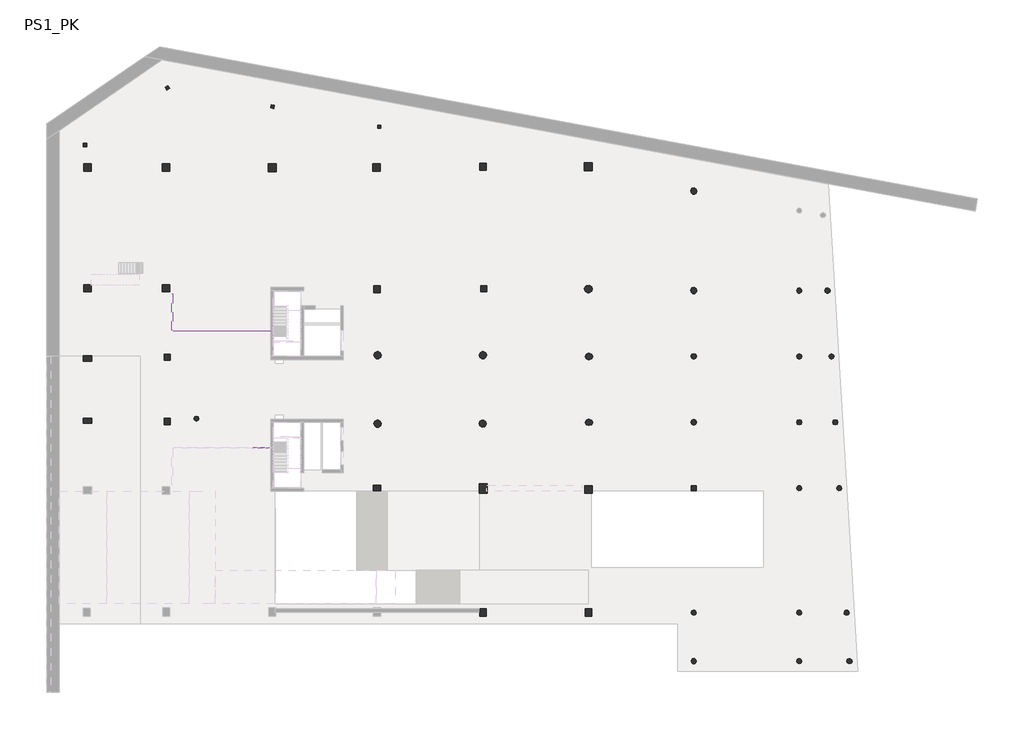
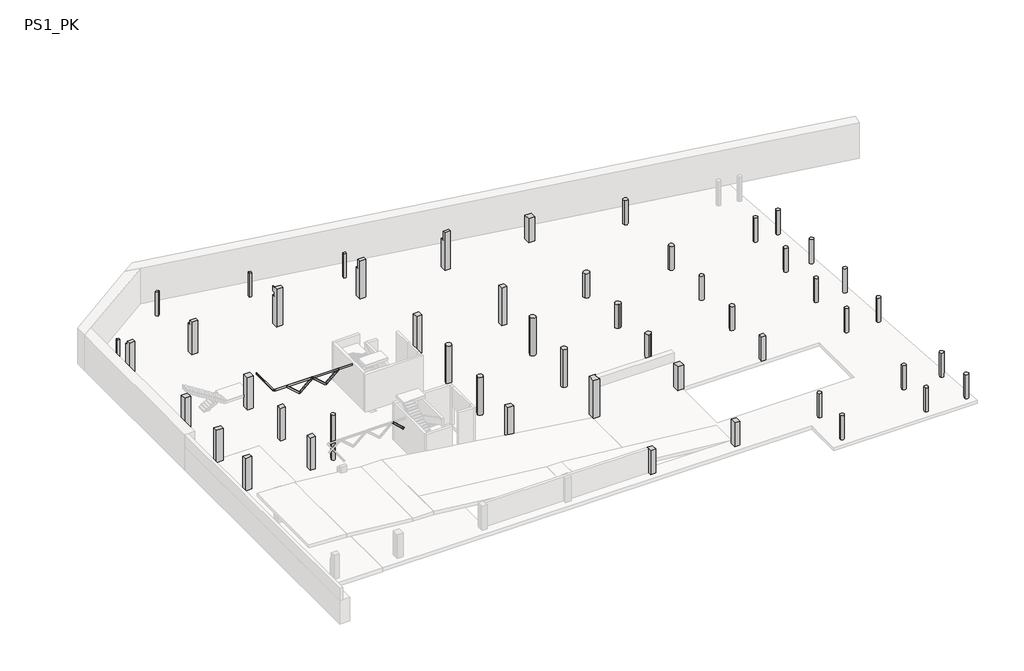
# One storey, part 2 of 5: 50 columns, 8 beams.
"""IFC4 building model written with IfcOpenShell, lengths in millimetres."""

from ifc_helpers import new_model, si_unit, point, frame, frame_2d, origin, place, context, project, spatial, polyline, circle_curve, trimmed, segment, composite_curve, outline, extrude, faceted_brep, transform, mapped, element, save
from components import ub_universal_beams_ipe_160x82_ff3febe6, upn200x75_1c1293da, upn200x75_5a3f8982, upn200x75_6adde346, upn200x75_6ec22855

model = new_model("IFC4")

# Units and contexts
model_context = context("Model", 3, world=origin())
ifc_project = project(units=[si_unit("LENGTHUNIT", "METRE", prefix="MILLI")], contexts=[model_context])

# Site, building, storey
site = spatial("IfcSite", under=ifc_project)
building = spatial("IfcBuilding", under=site)
storey = spatial("IfcBuildingStorey", under=building, Name="PS1_PK", Elevation=1850.0)

# Beams
placement = place(None, origin())
element("IfcBeam", 1, ObjectType="M_Concrete-Rectangular Beam : 600 x 800mm", at=placement, inside=storey, context=model_context, shape_type="Brep", body=[
    faceted_brep([(6732.5488953, -5410.1312177, 1050.0), (6132.5488953, -5410.1304592, 1050.0), (6132.5488953, -5410.1304592, 1450.0), (6732.5488953, -5410.1312177, 1450.0), (6132.5350845, -16335.0987777, 1050.0), (6732.5350845, -16335.0995362, 1050.0), (6732.5350845, -16335.0995362, 1450.0), (6132.5350845, -16335.0987777, 1450.0), (6132.5396986, -12685.103435, 1850.0), (6132.5357165, -15835.1021976, 1850.0), (6732.5357165, -15835.1021978, 1850.0), (6732.5396986, -12685.103435, 1850.0), (6732.5396986, -12685.103435, 1450.0), (6732.5357165, -15835.1021981, 1450.0), (6132.5357165, -15835.1021976, 1450.0), (6132.5396986, -12685.1034349, 1450.0)], [[[0, 1, 2, 3]], [[4, 5, 6, 7]], [[8, 9, 10, 11]], [[5, 0, 3, 12, 11, 10, 13, 6]], [[1, 0, 5, 4]], [[1, 4, 7, 14, 9, 8, 15, 2]], [[13, 14, 7, 6]], [[14, 13, 10, 9]], [[12, 15, 8, 11]], [[15, 12, 3, 2]]]),
])
ub_universal_beams_ipe_160x82_shape = ub_universal_beams_ipe_160x82_ff3febe6(model_context)
element("IfcBeam", 2, ObjectType="UB-Universal Beams : IPE 160x82", at=placement, inside=storey, context=model_context, shape_type="MappedRepresentation", body=[
    mapped(ub_universal_beams_ipe_160x82_shape, transform((-22991.1860553, 11796.9859036, 6250.0), x_axis=(0.0, -1.0, 0.0), y_axis=(1.0, 0.0, 0.0), z_axis=(0.0, 0.0, 1.0))),
])
upn200x75_shape = upn200x75_1c1293da(model_context)
element("IfcBeam", 3, ObjectType="M_MC Shapes : UPN200x75", at=placement, inside=storey, context=model_context, shape_type="MappedRepresentation", body=[
    mapped(upn200x75_shape, transform((-20665.5322726, 10001.2791584, 5556.0464738), x_axis=(0.7536675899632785, 9.524177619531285e-09, -0.6572557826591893), y_axis=(-1.2637106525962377e-08, 0.9999999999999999, 0.0), z_axis=(0.6572557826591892, 8.30581134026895e-09, 0.7536675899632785))),
])
element("IfcBeam", 4, ObjectType="M_MC Shapes : UPN200x75", at=placement, inside=storey, context=model_context, shape_type="MappedRepresentation", body=[
    mapped(upn200x75_shape, transform((-17564.672898, 10001.2791584, 5556.0464738), x_axis=(0.753667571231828, 9.518464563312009e-09, -0.657255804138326), y_axis=(-1.2629526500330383e-08, 1.0, 0.0), z_axis=(0.6572558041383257, 8.300829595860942e-09, 0.753667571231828))),
])
upn200x75_2_shape = upn200x75_5a3f8982(model_context)
element("IfcBeam", 5, ObjectType="M_MC Shapes : UPN200x75", at=placement, inside=storey, context=model_context, shape_type="MappedRepresentation", body=[
    mapped(upn200x75_2_shape, transform((-19115.1026541, 10001.2791583, 5556.0464738), x_axis=(-0.7536676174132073, 9.37918218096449e-09, -0.6572557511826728), y_axis=(-1.2444719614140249e-08, -1.0, 0.0), z_axis=(-0.6572557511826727, 8.17936353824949e-09, 0.7536676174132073))),
])
element("IfcBeam", 6, ObjectType="M_MC Shapes : UPN200x75", at=placement, inside=storey, context=model_context, shape_type="MappedRepresentation", body=[
    mapped(upn200x75_2_shape, transform((-16014.2433541, 10001.2791583, 5556.0464738), x_axis=(-0.753667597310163, 9.37305898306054e-09, -0.6572557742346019), y_axis=(-1.2436595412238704e-08, -0.9999999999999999, 0.0), z_axis=(-0.6572557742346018, 8.174024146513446e-09, 0.753667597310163))),
])
upn200x75_3_shape = upn200x75_6adde346(model_context)
element("IfcBeam", 7, ObjectType="M_MC Shapes : UPN200x75", at=placement, inside=storey, context=model_context, shape_type="MappedRepresentation", body=[
    mapped(upn200x75_3_shape, transform((-14545.5603774, -1021.4872817, 5606.0464738), x_axis=(0.7426831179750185, -1.1791248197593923e-08, -0.6696430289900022), y_axis=(1.5876553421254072e-08, 1.0, 0.0), z_axis=(0.6696430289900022, -1.0631623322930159e-08, 0.7426831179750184))),
])
upn200x75_4_shape = upn200x75_6ec22855(model_context)
element("IfcBeam", 8, ObjectType="M_MC Shapes : UPN200x75", at=placement, inside=storey, context=model_context, shape_type="MappedRepresentation", body=[
    mapped(upn200x75_4_shape, transform((-18278.2406773, 10001.2793274, 6230.0), x_axis=(0.9999999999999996, 3.175670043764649e-08, 0.0), y_axis=(-3.175670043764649e-08, 0.9999999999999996, 0.0), z_axis=(0.0, 0.0, 1.0))),
])

# Columns
element("IfcColumn", 9, ObjectType="Hormigón-Redondo-Pilar : Pilo_Rodo-Formigo-500", at=placement, inside=storey, context=model_context, shape_type="SweptSolid", body=[
    extrude(outline(composite_curve([segment(trimmed(circle_curve(frame_2d((36484.7068935, 13864.8960687)), 250.0), [point((36278.8019525, 13723.1104726))], [point((36690.6118345, 14006.6816649))], False, "CARTESIAN"), True, "CONTINUOUS"), segment(trimmed(circle_curve(frame_2d((36484.7068935, 13864.8960687)), 250.0), [point((36690.6118345, 14006.6816649))], [point((36278.8019525, 13723.1104726))], False, "CARTESIAN"), True, "CONTINUOUS")], self_intersect=False)), frame((0.0, 0.0, 1850.0), z_axis=(0.0, 0.0, 1.0), x_axis=(1.0, 0.0, 0.0)), (0.0, 0.0, 1.0), 3030.0),
])
element("IfcColumn", 10, ObjectType="Hormigón-Redondo-Pilar : Pilo_Rodo-Formigo-500", at=placement, inside=storey, context=model_context, shape_type="SweptSolid", body=[
    extrude(outline(composite_curve([segment(trimmed(circle_curve(frame_2d((39164.9781849, 13864.8960687)), 250.0), [point((38959.0732439, 13723.1104726))], [point((39370.8831259, 14006.6816649))], False, "CARTESIAN"), True, "CONTINUOUS"), segment(trimmed(circle_curve(frame_2d((39164.9781849, 13864.8960687)), 250.0), [point((39370.8831259, 14006.6816649))], [point((38959.0732439, 13723.1104726))], False, "CARTESIAN"), True, "CONTINUOUS")], self_intersect=False)), frame((0.0, 0.0, 1850.0), z_axis=(0.0, 0.0, 1.0), x_axis=(1.0, 0.0, 0.0)), (0.0, 0.0, 1.0), 3030.0),
])
element("IfcColumn", 11, ObjectType="Hormigón-Redondo-Pilar : Pilo_Rodo-Formigo-500", at=placement, inside=storey, context=model_context, shape_type="SweptSolid", body=[
    extrude(outline(composite_curve([segment(trimmed(circle_curve(frame_2d((40283.1132302, -4885.1039321)), 250.0), [point((40077.2082892, -5026.8895282))], [point((40489.0181712, -4743.318336))], False, "CARTESIAN"), True, "CONTINUOUS"), segment(trimmed(circle_curve(frame_2d((40283.1132302, -4885.1039321)), 250.0), [point((40489.0181712, -4743.318336))], [point((40077.2082892, -5026.8895282))], False, "CARTESIAN"), True, "CONTINUOUS")], self_intersect=False)), frame((0.0, 0.0, 1850.0), z_axis=(0.0, 0.0, 1.0), x_axis=(1.0, 0.0, 0.0)), (0.0, 0.0, 1.0), 3030.0),
])
element("IfcColumn", 12, ObjectType="Hormigón-Redondo-Pilar : Pilo_Rodo-Formigo-500", at=placement, inside=storey, context=model_context, shape_type="SweptSolid", body=[
    extrude(outline(composite_curve([segment(trimmed(circle_curve(frame_2d((36484.7068935, -4885.1039321)), 250.0), [point((36278.8019525, -5026.8895282))], [point((36690.6118345, -4743.318336))], False, "CARTESIAN"), True, "CONTINUOUS"), segment(trimmed(circle_curve(frame_2d((36484.7068935, -4885.1039321)), 250.0), [point((36690.6118345, -4743.318336))], [point((36278.8019525, -5026.8895282))], False, "CARTESIAN"), True, "CONTINUOUS")], self_intersect=False)), frame((0.0, 0.0, 1850.0), z_axis=(0.0, 0.0, 1.0), x_axis=(1.0, 0.0, 0.0)), (0.0, 0.0, 1.0), 3030.0),
])
element("IfcColumn", 13, ObjectType="Hormigón-Redondo-Pilar : Pilo_Rodo-Formigo-500", at=placement, inside=storey, context=model_context, shape_type="SweptSolid", body=[
    extrude(outline(composite_curve([segment(trimmed(circle_curve(frame_2d((26484.7068935, -16685.1039321)), 250.0), [point((26278.8019525, -16826.8895283))], [point((26690.6118345, -16543.318336))], False, "CARTESIAN"), True, "CONTINUOUS"), segment(trimmed(circle_curve(frame_2d((26484.7068935, -16685.1039321)), 250.0), [point((26690.6118345, -16543.318336))], [point((26278.8019525, -16826.8895283))], False, "CARTESIAN"), True, "CONTINUOUS")], self_intersect=False)), frame((0.0, 0.0, 1850.0), z_axis=(0.0, 0.0, 1.0), x_axis=(1.0, 0.0, 0.0)), (0.0, 0.0, 1.0), 3030.0),
])
element("IfcColumn", 14, ObjectType="Hormigón-Redondo-Pilar : Pilo_Rodo-Formigo-600", at=placement, inside=storey, context=model_context, shape_type="SweptSolid", body=[
    extrude(outline(composite_curve([segment(trimmed(circle_curve(frame_2d((26484.7068935, 13864.8960687)), 300.0), [point((26237.6209643, 13694.7533534))], [point((26731.7928227, 14035.0387841))], False, "CARTESIAN"), True, "CONTINUOUS"), segment(trimmed(circle_curve(frame_2d((26484.7068935, 13864.8960687)), 300.0), [point((26731.7928227, 14035.0387841))], [point((26237.6209643, 13694.7533534))], False, "CARTESIAN"), True, "CONTINUOUS")], self_intersect=False)), frame((0.0, 0.0, 1850.0), z_axis=(0.0, 0.0, 1.0), x_axis=(1.0, 0.0, 0.0)), (0.0, 0.0, 1.0), 3030.0),
])
element("IfcColumn", 15, ObjectType="Hormigón-Redondo-Pilar : Pilo_Rodo-Formigo-600", at=placement, inside=storey, context=model_context, shape_type="SweptSolid", body=[
    extrude(outline(composite_curve([segment(trimmed(circle_curve(frame_2d((26484.7068935, 23302.069934)), 300.0), [point((26237.6209643, 23131.9272187))], [point((26731.7928227, 23472.2126494))], False, "CARTESIAN"), True, "CONTINUOUS"), segment(trimmed(circle_curve(frame_2d((26484.7068935, 23302.069934)), 300.0), [point((26731.7928227, 23472.2126494))], [point((26237.6209643, 23131.9272187))], False, "CARTESIAN"), True, "CONTINUOUS")], self_intersect=False)), frame((0.0, 0.0, 1850.0), z_axis=(0.0, 0.0, 1.0), x_axis=(1.0, 0.0, 0.0)), (0.0, 0.0, 1.0), 3030.0),
])
element("IfcColumn", 16, ObjectType="Hormigón-Redondo-Pilar : Pilo_Rodo-Formigo-500", at=placement, inside=storey, context=model_context, shape_type="SweptSolid", body=[
    extrude(outline(composite_curve([segment(trimmed(circle_curve(frame_2d((41261.1120554, -21285.1604802)), 250.0), [point((41055.2071144, -21426.9460764))], [point((41467.0169964, -21143.3748841))], False, "CARTESIAN"), True, "CONTINUOUS"), segment(trimmed(circle_curve(frame_2d((41261.1120554, -21285.1604802)), 250.0), [point((41467.0169964, -21143.3748841))], [point((41055.2071144, -21426.9460764))], False, "CARTESIAN"), True, "CONTINUOUS")], self_intersect=False)), frame((0.0, 0.0, 1850.0), z_axis=(0.0, 0.0, 1.0), x_axis=(1.0, 0.0, 0.0)), (0.0, 0.0, 1.0), 3030.0),
])
element("IfcColumn", 17, ObjectType="Hormigón-Redondo-Pilar : Pilo_Rodo-Formigo-500", at=placement, inside=storey, context=model_context, shape_type="SweptSolid", body=[
    extrude(outline(composite_curve([segment(trimmed(circle_curve(frame_2d((36484.7043954, -21285.1604781)), 250.0), [point((36278.7994544, -21426.9460742))], [point((36690.6093364, -21143.374882))], False, "CARTESIAN"), True, "CONTINUOUS"), segment(trimmed(circle_curve(frame_2d((36484.7043954, -21285.1604781)), 250.0), [point((36690.6093364, -21143.374882))], [point((36278.7994544, -21426.9460742))], False, "CARTESIAN"), True, "CONTINUOUS")], self_intersect=False)), frame((0.0, 0.0, 1850.0), z_axis=(0.0, 0.0, 1.0), x_axis=(1.0, 0.0, 0.0)), (0.0, 0.0, 1.0), 3030.0),
])
element("IfcColumn", 18, ObjectType="Hormigón-Redondo-Pilar : Pilo_Rodo-Formigo-500", at=placement, inside=storey, context=model_context, shape_type="SweptSolid", body=[
    extrude(outline(composite_curve([segment(trimmed(circle_curve(frame_2d((26484.7068935, -21285.160486)), 250.0), [point((26278.8019525, -21426.9460821))], [point((26690.6118345, -21143.3748899))], False, "CARTESIAN"), True, "CONTINUOUS"), segment(trimmed(circle_curve(frame_2d((26484.7068935, -21285.160486)), 250.0), [point((26690.6118345, -21143.3748899))], [point((26278.8019525, -21426.9460821))], False, "CARTESIAN"), True, "CONTINUOUS")], self_intersect=False)), frame((0.0, 0.0, 1850.0), z_axis=(0.0, 0.0, 1.0), x_axis=(1.0, 0.0, 0.0)), (0.0, 0.0, 1.0), 3030.0),
])
element("IfcColumn", 19, ObjectType="Hormigón-Redondo-Pilar : Pilo_Rodo-Formigo-500", at=placement, inside=storey, context=model_context, shape_type="SweptSolid", body=[
    extrude(outline(composite_curve([segment(trimmed(circle_curve(frame_2d((36484.7044454, -16685.1038568)), 250.0), [point((36278.7995044, -16826.889453))], [point((36690.6093864, -16543.3182607))], False, "CARTESIAN"), True, "CONTINUOUS"), segment(trimmed(circle_curve(frame_2d((36484.7044454, -16685.1038568)), 250.0), [point((36690.6093864, -16543.3182607))], [point((36278.7995044, -16826.889453))], False, "CARTESIAN"), True, "CONTINUOUS")], self_intersect=False)), frame((0.0, 0.0, 1850.0), z_axis=(0.0, 0.0, 1.0), x_axis=(1.0, 0.0, 0.0)), (0.0, 0.0, 1.0), 3030.0),
])
element("IfcColumn", 20, ObjectType="Hormigón-Redondo-Pilar : Pilo_Rodo-Formigo-500", at=placement, inside=storey, context=model_context, shape_type="SweptSolid", body=[
    extrude(outline(composite_curve([segment(trimmed(circle_curve(frame_2d((40986.8189979, -16685.1066794)), 250.0), [point((40780.9140569, -16826.8922756))], [point((41192.7239389, -16543.3210833))], False, "CARTESIAN"), True, "CONTINUOUS"), segment(trimmed(circle_curve(frame_2d((40986.8189979, -16685.1066794)), 250.0), [point((41192.7239389, -16543.3210833))], [point((40780.9140569, -16826.8922756))], False, "CARTESIAN"), True, "CONTINUOUS")], self_intersect=False)), frame((0.0, 0.0, 1850.0), z_axis=(0.0, 0.0, 1.0), x_axis=(1.0, 0.0, 0.0)), (0.0, 0.0, 1.0), 3030.0),
])
element("IfcColumn", 21, ObjectType="Hormigón-Redondo-Pilar : Pilo_Rodo-Formigo-500", at=placement, inside=storey, context=model_context, shape_type="SweptSolid", body=[
    extrude(outline(composite_curve([segment(trimmed(circle_curve(frame_2d((39910.4276218, 1364.8961297)), 250.0), [point((39660.4276218, 1364.8961297))], [point((40160.4276218, 1364.8961297))], False, "CARTESIAN"), True, "CONTINUOUS"), segment(trimmed(circle_curve(frame_2d((39910.4276218, 1364.8961297)), 250.0), [point((40160.4276218, 1364.8961297))], [point((39660.4276218, 1364.8961297))], False, "CARTESIAN"), True, "CONTINUOUS")], self_intersect=False)), frame((0.0, 0.0, 1850.0), z_axis=(0.0, 0.0, 1.0), x_axis=(1.0, 0.0, 0.0)), (0.0, 0.0, 1.0), 3030.0),
])
element("IfcColumn", 22, ObjectType="Hormigón-Redondo-Pilar : Pilo_Rodo-Formigo-500", at=placement, inside=storey, context=model_context, shape_type="SweptSolid", body=[
    extrude(outline(composite_curve([segment(trimmed(circle_curve(frame_2d((36484.7044304, 1364.8961253)), 250.0), [point((36234.7044304, 1364.8961253))], [point((36734.7044304, 1364.8961253))], False, "CARTESIAN"), True, "CONTINUOUS"), segment(trimmed(circle_curve(frame_2d((36484.7044304, 1364.8961253)), 250.0), [point((36734.7044304, 1364.8961253))], [point((36234.7044304, 1364.8961253))], False, "CARTESIAN"), True, "CONTINUOUS")], self_intersect=False)), frame((0.0, 0.0, 1850.0), z_axis=(0.0, 0.0, 1.0), x_axis=(1.0, 0.0, 0.0)), (0.0, 0.0, 1.0), 3030.0),
])
element("IfcColumn", 23, ObjectType="Hormigón-Redondo-Pilar : Pilo_Rodo-Formigo-550", at=placement, inside=storey, context=model_context, shape_type="SweptSolid", body=[
    extrude(outline(composite_curve([segment(trimmed(circle_curve(frame_2d((26484.7044314, 1364.8961085)), 275.0), [point((26209.7044314, 1364.8961085))], [point((26759.7044314, 1364.8961085))], False, "CARTESIAN"), True, "CONTINUOUS"), segment(trimmed(circle_curve(frame_2d((26484.7044314, 1364.8961085)), 275.0), [point((26759.7044314, 1364.8961085))], [point((26209.7044314, 1364.8961085))], False, "CARTESIAN"), True, "CONTINUOUS")], self_intersect=False)), frame((0.0, 0.0, 1850.0), z_axis=(0.0, 0.0, 1.0), x_axis=(1.0, 0.0, 0.0)), (0.0, 0.0, 1.0), 3030.0),
])
element("IfcColumn", 24, ObjectType="Hormigón-Redondo-Pilar : Pilo_Rodo-Formigo-700", at=placement, inside=storey, context=model_context, shape_type="SweptSolid", body=[
    extrude(outline(composite_curve([segment(trimmed(circle_curve(frame_2d((-3515.295583, 1239.8960815)), 350.0), [point((-3865.295583, 1239.8960815))], [point((-3165.295583, 1239.8960815))], False, "CARTESIAN"), True, "CONTINUOUS"), segment(trimmed(circle_curve(frame_2d((-3515.295583, 1239.8960815)), 350.0), [point((-3165.295583, 1239.8960815))], [point((-3865.295583, 1239.8960815))], False, "CARTESIAN"), True, "CONTINUOUS")], self_intersect=False)), frame((0.0, 0.0, 1850.0), z_axis=(0.0, 0.0, 1.0), x_axis=(1.0, 0.0, 0.0)), (0.0, 0.0, 1.0), 4750.0),
])
element("IfcColumn", 25, ObjectType="Hormigón-Redondo-Pilar : Pilo_Rodo-Formigo-700", at=placement, inside=storey, context=model_context, shape_type="SweptSolid", body=[
    extrude(outline(composite_curve([segment(trimmed(circle_curve(frame_2d((-3515.2956005, 7739.8960931)), 350.0), [point((-3865.2956005, 7739.8960931))], [point((-3165.2956005, 7739.8960931))], False, "CARTESIAN"), True, "CONTINUOUS"), segment(trimmed(circle_curve(frame_2d((-3515.2956005, 7739.8960931)), 350.0), [point((-3165.2956005, 7739.8960931))], [point((-3865.2956005, 7739.8960931))], False, "CARTESIAN"), True, "CONTINUOUS")], self_intersect=False)), frame((0.0, 0.0, 1850.0), z_axis=(0.0, 0.0, 1.0), x_axis=(1.0, 0.0, 0.0)), (0.0, 0.0, 1.0), 4750.0),
])
element("IfcColumn", 26, ObjectType="Hormigón-Redondo-Pilar : Pilo_Rodo-Formigo-700", at=placement, inside=storey, context=model_context, shape_type="SweptSolid", body=[
    extrude(outline(composite_curve([segment(trimmed(circle_curve(frame_2d((6484.7044205, 7739.8960773)), 350.0), [point((6134.7044205, 7739.8960773))], [point((6834.7044205, 7739.8960773))], False, "CARTESIAN"), True, "CONTINUOUS"), segment(trimmed(circle_curve(frame_2d((6484.7044205, 7739.8960773)), 350.0), [point((6834.7044205, 7739.8960773))], [point((6134.7044205, 7739.8960773))], False, "CARTESIAN"), True, "CONTINUOUS")], self_intersect=False)), frame((0.0, 0.0, 1850.0), z_axis=(0.0, 0.0, 1.0), x_axis=(1.0, 0.0, 0.0)), (0.0, 0.0, 1.0), 4750.0),
])
element("IfcColumn", 27, ObjectType="Hormigón-Redondo-Pilar : Pilo_Rodo-Formigo-500", at=placement, inside=storey, context=model_context, shape_type="SweptSolid", body=[
    extrude(outline(composite_curve([segment(trimmed(circle_curve(frame_2d((39537.7159138, 7614.893356)), 250.0), [point((39287.7159138, 7614.893356))], [point((39787.7159138, 7614.893356))], False, "CARTESIAN"), True, "CONTINUOUS"), segment(trimmed(circle_curve(frame_2d((39537.7159138, 7614.893356)), 250.0), [point((39787.7159138, 7614.893356))], [point((39287.7159138, 7614.893356))], False, "CARTESIAN"), True, "CONTINUOUS")], self_intersect=False)), frame((0.0, 0.0, 1850.0), z_axis=(0.0, 0.0, 1.0), x_axis=(1.0, 0.0, 0.0)), (0.0, 0.0, 1.0), 3030.0),
])
element("IfcColumn", 28, ObjectType="Hormigón-Redondo-Pilar : Pilo_Rodo-Formigo-500", at=placement, inside=storey, context=model_context, shape_type="SweptSolid", body=[
    extrude(outline(composite_curve([segment(trimmed(circle_curve(frame_2d((36484.704421, 7614.8961253)), 250.0), [point((36234.704421, 7614.8961253))], [point((36734.704421, 7614.8961253))], False, "CARTESIAN"), True, "CONTINUOUS"), segment(trimmed(circle_curve(frame_2d((36484.704421, 7614.8961253)), 250.0), [point((36734.704421, 7614.8961253))], [point((36234.704421, 7614.8961253))], False, "CARTESIAN"), True, "CONTINUOUS")], self_intersect=False)), frame((0.0, 0.0, 1850.0), z_axis=(0.0, 0.0, 1.0), x_axis=(1.0, 0.0, 0.0)), (0.0, 0.0, 1.0), 3030.0),
])
element("IfcColumn", 29, ObjectType="Hormigón-Redondo-Pilar : Pilo_Rodo-Formigo-550", at=placement, inside=storey, context=model_context, shape_type="SweptSolid", body=[
    extrude(outline(composite_curve([segment(trimmed(circle_curve(frame_2d((26484.7044084, 7614.8961267)), 275.0), [point((26209.7044084, 7614.8961267))], [point((26759.7044084, 7614.8961267))], False, "CARTESIAN"), True, "CONTINUOUS"), segment(trimmed(circle_curve(frame_2d((26484.7044084, 7614.8961267)), 275.0), [point((26759.7044084, 7614.8961267))], [point((26209.7044084, 7614.8961267))], False, "CARTESIAN"), True, "CONTINUOUS")], self_intersect=False)), frame((0.0, 0.0, 1850.0), z_axis=(0.0, 0.0, 1.0), x_axis=(1.0, 0.0, 0.0)), (0.0, 0.0, 1.0), 3030.0),
])
element("IfcColumn", 30, ObjectType="Hormigón-Redondo-Pilar : Pilo_Rodo-Formigo-750", at=placement, inside=storey, context=model_context, shape_type="SweptSolid", body=[
    extrude(outline(composite_curve([segment(trimmed(circle_curve(frame_2d((16483.7687241, 14014.3945557)), 375.0), [point((16174.9113126, 13801.7161616))], [point((16792.6261356, 14227.0729499))], False, "CARTESIAN"), True, "CONTINUOUS"), segment(trimmed(circle_curve(frame_2d((16483.7687241, 14014.3945557)), 375.0), [point((16792.6261356, 14227.0729499))], [point((16174.9113126, 13801.7161616))], False, "CARTESIAN"), True, "CONTINUOUS")], self_intersect=False)), frame((0.0, 0.0, 1850.0), z_axis=(0.0, 0.0, 1.0), x_axis=(1.0, 0.0, 0.0)), (0.0, 0.0, 1.0), 3030.0),
])
element("IfcColumn", 31, ObjectType="Hormigón-Redondo-Pilar : Pilo_Rodo-Formigo-700", at=placement, inside=storey, context=model_context, shape_type="SweptSolid", body=[
    extrude(outline(composite_curve([segment(trimmed(circle_curve(frame_2d((6458.8284838, 1239.8966326)), 350.0), [point((6170.5615664, 1041.396798))], [point((6747.0954012, 1438.3964672))], False, "CARTESIAN"), True, "CONTINUOUS"), segment(trimmed(circle_curve(frame_2d((6458.8284838, 1239.8966326)), 350.0), [point((6747.0954012, 1438.3964672))], [point((6170.5615664, 1041.396798))], False, "CARTESIAN"), True, "CONTINUOUS")], self_intersect=False)), frame((0.0, 0.0, 1850.0), z_axis=(0.0, 0.0, 1.0), x_axis=(1.0, 0.0, 0.0)), (0.0, 0.0, 1.0), 4750.0),
])
element("IfcColumn", 32, ObjectType="Hormigón-Redondo-Pilar : Pilo_Rodo-Formigo-460", at=placement, inside=storey, context=model_context, shape_type="SweptSolid", body=[
    extrude(outline(composite_curve([segment(trimmed(circle_curve(frame_2d((-20703.8740498, 1707.5408445)), 230.0), [point((-20473.8740498, 1707.5408445))], [point((-20933.8740498, 1707.5408445))], False, "CARTESIAN"), True, "CONTINUOUS"), segment(trimmed(circle_curve(frame_2d((-20703.8740498, 1707.5408445)), 230.0), [point((-20933.8740498, 1707.5408445))], [point((-20473.8740498, 1707.5408445))], False, "CARTESIAN"), True, "CONTINUOUS")], self_intersect=False)), frame((0.0, 0.0, 1850.0), z_axis=(0.0, 0.0, 1.0), x_axis=(1.0, 0.0, 0.0)), (0.0, 0.0, 1.0), 5680.0),
])
element("IfcColumn", 33, ObjectType="Columna_SecComp_Circ : Columna_SecComp_Circ_600x700", at=placement, inside=storey, context=model_context, shape_type="SweptSolid", body=[
    extrude(outline(composite_curve([segment(polyline([(16484.6790981, 7914.8965899), (16584.6790981, 7914.8965899)]), True, "CONTINUOUS"), segment(trimmed(circle_curve(frame_2d((16584.6790981, 7614.8965899)), 300.0), [point((16584.6790981, 7914.8965899))], [point((16584.6790981, 7314.8965899))], False, "CARTESIAN"), True, "CONTINUOUS"), segment(polyline([(16584.6790981, 7314.8965899), (16484.6790981, 7314.8965899)]), True, "CONTINUOUS"), segment(trimmed(circle_curve(frame_2d((16484.6790981, 7614.8965899)), 300.0), [point((16484.6790981, 7314.8965899))], [point((16484.6790981, 7914.8965899))], False, "CARTESIAN"), True, "CONTINUOUS")], self_intersect=False)), frame((0.0, 0.0, 1850.0), z_axis=(0.0, 0.0, 1.0), x_axis=(1.0, 0.0, 0.0)), (0.0, 0.0, 1.0), 3030.0),
])
element("IfcColumn", 34, ObjectType="Columna_SecComp_Circ : Columna_SecComp_Circ_600x700", at=placement, inside=storey, context=model_context, shape_type="SweptSolid", body=[
    extrude(outline(composite_curve([segment(polyline([(16484.6790984, 1664.8965909), (16584.6790984, 1664.8965909)]), True, "CONTINUOUS"), segment(trimmed(circle_curve(frame_2d((16584.6790984, 1364.8965909)), 300.0), [point((16584.6790984, 1664.8965909))], [point((16584.6790984, 1064.8965909))], False, "CARTESIAN"), True, "CONTINUOUS"), segment(polyline([(16584.6790984, 1064.8965909), (16484.6790984, 1064.8965909)]), True, "CONTINUOUS"), segment(trimmed(circle_curve(frame_2d((16484.6790984, 1364.8965909)), 300.0), [point((16484.6790984, 1064.8965909))], [point((16484.6790984, 1664.8965909))], False, "CARTESIAN"), True, "CONTINUOUS")], self_intersect=False)), frame((0.0, 0.0, 1850.0), z_axis=(0.0, 0.0, 1.0), x_axis=(1.0, 0.0, 0.0)), (0.0, 0.0, 1.0), 3030.0),
])
element("IfcColumn", 35, ObjectType="Concrete-Rectangular-Column : Pilar_Rectangular-Formigo-600x700", at=placement, inside=storey, context=model_context, shape_type="Brep", body=[
    faceted_brep([(6784.7043793, -16335.1039321, 1850.0), (6784.7043793, -17035.1039321, 1850.0), (6184.7043793, -17035.1039321, 1850.0), (6184.7043793, -16634.9031429, 1850.0), (6184.7043793, -16335.1039321, 1850.0), (6784.7043793, -16335.1039321, 4880.0), (6784.7043793, -17035.1039321, 4880.0), (6184.7043793, -17035.1039321, 4880.0), (6184.7043793, -16634.9031429, 4880.0), (6184.7043793, -16335.1039321, 4880.0)], [[[0, 1, 2, 3, 4]], [[5, 6, 1, 0]], [[6, 7, 2, 1]], [[7, 8, 9, 4, 3, 2]], [[9, 5, 0, 4]], [[5, 9, 8, 7, 6]]]),
])
element("IfcColumn", 36, ObjectType="Concrete-Rectangular-Column : Pilar_Rectangular-Formigo-600x700", at=placement, inside=storey, context=model_context, shape_type="SweptSolid", body=[
    extrude(outline(polyline([(16784.7043676, -16335.1039321), (16784.7043676, -17035.1039321), (16184.7043676, -17035.1039321), (16184.7043676, -16335.1039321), (16784.7043676, -16335.1039321)])), frame((0.0, 0.0, 1850.0), z_axis=(0.0, 0.0, 1.0), x_axis=(1.0, 0.0, 0.0)), (0.0, 0.0, 1.0), 3030.0),
])
element("IfcColumn", 37, ObjectType="Concrete-Rectangular-Column : Pilar_Rectangular-Formigo-700x750", at=placement, inside=storey, context=model_context, shape_type="SweptSolid", body=[
    extrude(outline(polyline([(16834.7044544, -4635.1034209), (16834.7044536, -5385.1034209), (16134.7044536, -5385.1034202), (16134.7044544, -4635.1034202), (16834.7044544, -4635.1034209)])), frame((0.0, 0.0, 1850.0), z_axis=(0.0, 0.0, 1.0), x_axis=(1.0, 0.0, 0.0)), (0.0, 0.0, 1.0), 3030.0),
])
element("IfcColumn", 38, ObjectType="Concrete-Rectangular-Column : Pilar_Rectangular-Formigo-500x500", at=placement, inside=storey, context=model_context, shape_type="SweptSolid", body=[
    extrude(outline(polyline([(26734.7044286, -4635.10389), (26734.7044286, -5135.10389), (26234.7044286, -5135.10389), (26234.7044286, -4635.10389), (26734.7044286, -4635.10389)])), frame((0.0, 0.0, 1850.0), z_axis=(0.0, 0.0, 1.0), x_axis=(1.0, 0.0, 0.0)), (0.0, 0.0, 1.0), 3030.0),
])
element("IfcColumn", 39, ObjectType="Concrete-Rectangular-Column : Pilar_Rectangular-Formigo-500x800", at=placement, inside=storey, context=model_context, shape_type="SweptSolid", body=[
    extrude(outline(polyline([(-31415.2980702, 1764.8932275), (-30615.2980702, 1764.8932275), (-30615.2980702, 1264.8932275), (-31415.2980702, 1264.8932275), (-31415.2980702, 1764.8932275)])), frame((0.0, 0.0, 1850.0), z_axis=(0.0, 0.0, 1.0), x_axis=(1.0, 0.0, 0.0)), (0.0, 0.0, 1.0), 4080.0),
])
element("IfcColumn", 40, ObjectType="Concrete-Rectangular-Column : Pilar_Rectangular-Formigo-500x800", at=placement, inside=storey, context=model_context, shape_type="SweptSolid", body=[
    extrude(outline(polyline([(-31415.3390029, 7664.8960687), (-30615.3390029, 7664.8960687), (-30615.3390029, 7164.8960687), (-31415.3390029, 7164.8960687), (-31415.3390029, 7664.8960687)])), frame((0.0, 0.0, 1850.0), z_axis=(0.0, 0.0, 1.0), x_axis=(1.0, 0.0, 0.0)), (0.0, 0.0, 1.0), 4080.0),
])
element("IfcColumn", 41, ObjectType="Concrete-Rectangular-Column : Pilar_Rectangular-Formigo-700x700", at=placement, inside=storey, context=model_context, shape_type="Brep", body=[
    faceted_brep([(-31391.2187237, 25189.4132367, 1850.0), (-31391.2187262, 25889.4132367, 1850.0), (-30691.2187262, 25889.4132392, 1850.0), (-30691.2187237, 25189.4132392, 1850.0), (-31391.2187237, 25189.4132367, 5930.0), (-31391.2187251, 25589.9950291, 5930.0), (-31391.2187251, 25589.9945019, 5480.0), (-31391.2187262, 25889.4132367, 5480.0), (-30691.2187262, 25889.4132392, 5480.0), (-30691.2187251, 25589.9950291, 5480.0), (-30691.2187251, 25589.9945019, 5930.0), (-30691.2187237, 25189.4132392, 5930.0)], [[[0, 1, 2, 3]], [[1, 0, 4, 5, 6, 7]], [[2, 1, 7, 8]], [[3, 2, 8, 9, 10, 11]], [[0, 3, 11, 4]], [[4, 11, 10, 5]], [[9, 6, 5, 10]], [[6, 9, 8, 7]]]),
])
element("IfcColumn", 42, ObjectType="Concrete-Rectangular-Column : Pilar_Rectangular-Formigo-700x700", at=placement, inside=storey, context=model_context, shape_type="SweptSolid", body=[
    extrude(outline(polyline([(-23941.1835768, 13739.413442), (-23941.1835774, 14439.413442), (-23241.1835774, 14439.4134427), (-23241.1835768, 13739.4134427), (-23941.1835768, 13739.413442)])), frame((0.0, 0.0, 1850.0), z_axis=(0.0, 0.0, 1.0), x_axis=(1.0, 0.0, 0.0)), (0.0, 0.0, 1.0), 4080.0),
])
element("IfcColumn", 43, ObjectType="Concrete-Rectangular-Column : Pilar_Rectangular-Formigo-700x700", at=placement, inside=storey, context=model_context, shape_type="Brep", body=[
    faceted_brep([(-23941.1831389, 25189.4132616, 1850.0), (-23941.1831465, 25889.4132616, 1850.0), (-23241.1831465, 25889.4132693, 1850.0), (-23241.1831389, 25189.4132693, 1850.0), (-23941.1831389, 25189.4132616, 5930.0), (-23941.1831433, 25589.9950291, 5930.0), (-23941.1831433, 25589.9949319, 5480.0), (-23941.1831465, 25889.4132616, 5480.0), (-23241.1831465, 25889.4132693, 5480.0), (-23241.1831433, 25589.9950291, 5480.0), (-23241.1831433, 25589.9949319, 5930.0), (-23241.1831389, 25189.4132693, 5930.0)], [[[0, 1, 2, 3]], [[1, 0, 4, 5, 6, 7]], [[2, 1, 7, 8]], [[3, 2, 8, 9, 10, 11]], [[0, 3, 11, 4]], [[4, 11, 10, 5]], [[9, 6, 5, 10]], [[6, 9, 8, 7]]]),
])
element("IfcColumn", 44, ObjectType="Concrete-Rectangular-Column : Pilar_Rectangular-Formigo-750x750", at=placement, inside=storey, context=model_context, shape_type="Brep", body=[
    faceted_brep([(-13890.3365027, 25139.4133081, 1850.0), (-13890.3365042, 25889.4133081, 1850.0), (-13140.3365042, 25889.4133096, 1850.0), (-13140.3365027, 25139.4133096, 1850.0), (-13890.3365027, 25139.4133081, 6600.0), (-13890.3365042, 25889.4133081, 6600.0), (-13890.3365042, 25889.4133081, 5930.0), (-13890.3365036, 25589.9950291, 5930.0), (-13890.3365036, 25589.9954156, 5480.0), (-13890.3365042, 25889.4133081, 5480.0), (-13840.4585477, 25889.4133082, 6600.0), (-13840.4576583, 25889.4133082, 5930.0), (-13140.3365042, 25889.4133096, 5480.0), (-13140.3365036, 25589.9950291, 5480.0), (-13140.3365036, 25589.9954156, 6600.0), (-13140.3365027, 25139.4133096, 6600.0), (-13840.4585477, 25589.9950291, 6600.0), (-13840.4586802, 25589.9950291, 5930.0), (-13840.4586802, 25589.9950291, 5480.0)], [[[0, 1, 2, 3]], [[1, 0, 4, 5, 6, 7, 8, 9]], [[6, 5, 10, 11]], [[3, 2, 12, 13, 14, 15]], [[0, 3, 15, 4]], [[5, 4, 15, 14, 16, 10]], [[8, 7, 17, 16, 14, 13, 18]], [[8, 18, 13, 12, 9]], [[17, 7, 6, 11]], [[16, 17, 11, 10]], [[2, 1, 9, 12]]]),
])
element("IfcColumn", 45, ObjectType="Concrete-Rectangular-Column : Pilar_Rectangular-Formigo-700x700", at=placement, inside=storey, context=model_context, shape_type="SweptSolid", body=[
    extrude(outline(polyline([(4750.0, 0.0), (4750.0, -700.0), (0.0, -700.0), (0.0, -299.4183195), (1120.0, -299.4183195), (1120.0, 0.0), (4750.0, 0.0)])), frame((-3966.6336852, 25889.4133486, 6600.0), z_axis=(1.0, 2.6213632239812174e-10, 0.0), x_axis=(0.0, 0.0, -1.0)), (0.0, 0.0, 1.0), 700.0),
])
element("IfcColumn", 46, ObjectType="Concrete-Rectangular-Column : Pilar_Rectangular-Formigo-650x650", at=placement, inside=storey, context=model_context, shape_type="SweptSolid", body=[
    extrude(outline(polyline([(-3241.6334486, 13664.8960114), (-3891.6334486, 13664.8960103), (-3891.6334498, 14314.8960103), (-3241.6334498, 14314.8960114), (-3241.6334486, 13664.8960114)])), frame((0.0, 0.0, 1850.0), z_axis=(0.0, 0.0, 1.0), x_axis=(1.0, 0.0, 0.0)), (0.0, 0.0, 1.0), 4750.0),
])
element("IfcColumn", 47, ObjectType="Concrete-Rectangular-Column : Pilar_Rectangular-Formigo-650x700", at=placement, inside=storey, context=model_context, shape_type="Brep", body=[
    faceted_brep([(6159.6783566, 25264.412812, 1850.0), (6159.6783544, 25964.412812, 1850.0), (6809.6783544, 25964.412814, 1850.0), (6809.6783566, 25264.412814, 1850.0), (6159.6783566, 25264.412812, 6600.0), (6159.6783556, 25589.9950291, 6600.0), (6159.6783556, 25589.9950957, 5480.0), (6159.6783544, 25964.412812, 5480.0), (6809.6783544, 25964.412814, 5480.0), (6809.6783556, 25589.9950291, 5480.0), (6809.6783556, 25589.9950957, 6600.0), (6809.6783566, 25264.412814, 6600.0)], [[[0, 1, 2, 3]], [[1, 0, 4, 5, 6, 7]], [[2, 1, 7, 8]], [[3, 2, 8, 9, 10, 11]], [[0, 3, 11, 4]], [[4, 11, 10, 5]], [[9, 6, 5, 10]], [[6, 9, 8, 7]]]),
])
element("IfcColumn", 48, ObjectType="Concrete-Rectangular-Column : Pilar_Rectangular-Formigo-750x750", at=placement, inside=storey, context=model_context, shape_type="SweptSolid", body=[
    extrude(outline(polyline([(16109.6783564, 25240.1849653), (16109.6783572, 25990.1849653), (16859.6783572, 25990.1849645), (16859.6783564, 25240.1849645), (16109.6783564, 25240.1849653)])), frame((0.0, 0.0, 1850.0), z_axis=(0.0, 0.0, 1.0), x_axis=(1.0, 0.0, 0.0)), (0.0, 0.0, 1.0), 3030.0),
])
element("IfcColumn", 49, ObjectType="Concrete-Rectangular-Column : Pilar_Rectangular-Formigo-600x700", at=placement, inside=storey, context=model_context, shape_type="SweptSolid", body=[
    extrude(outline(polyline([(-3215.3209111, -5185.1039334), (-3915.3209111, -5185.103932), (-3915.3209099, -4585.103932), (-3215.3209099, -4585.1039334), (-3215.3209111, -5185.1039334)])), frame((0.0, 0.0, 1850.0), z_axis=(0.0, 0.0, 1.0), x_axis=(1.0, 0.0, 0.0)), (0.0, 0.0, 1.0), 4750.0),
])
element("IfcColumn", 50, ObjectType="Concrete-Rectangular-Column : Pilar_Rectangular-Formigo-600x600", at=placement, inside=storey, context=model_context, shape_type="SweptSolid", body=[
    extrude(outline(polyline([(6858.8308688, 14339.3939274), (6858.8308681, 13739.3939274), (6258.8308681, 13739.3939282), (6258.8308688, 14339.3939282), (6858.8308688, 14339.3939274)])), frame((0.0, 0.0, 1850.0), z_axis=(0.0, 0.0, 1.0), x_axis=(1.0, 0.0, 0.0)), (0.0, 0.0, 1.0), 4750.0),
])
element("IfcColumn", 51, ObjectType="Concrete-Rectangular-Column : Pilar_Rectangular-Formigo-300x300", at=placement, inside=storey, context=model_context, shape_type="SweptSolid", body=[
    extrude(outline(polyline([(-31415.5307472, 27527.885477), (-31415.5307472, 27827.885477), (-31115.5307472, 27827.885477), (-31115.5307472, 27527.885477), (-31415.5307472, 27527.885477)])), frame((0.0, 0.0, 1850.0), z_axis=(0.0, 0.0, 1.0), x_axis=(1.0, 0.0, 0.0)), (0.0, 0.0, 1.0), 3030.0),
])
element("IfcColumn", 52, ObjectType="Concrete-Rectangular-Column : Pilar_Rectangular-Formigo-300x300", at=placement, inside=storey, context=model_context, shape_type="SweptSolid", body=[
    extrude(outline(polyline([(-23493.9994599, 32890.8463544), (-23663.5476811, 33138.3405981), (-23416.0534374, 33307.8888193), (-23246.5052162, 33060.3945756), (-23493.9994599, 32890.8463544)])), frame((0.0, 0.0, 1850.0), z_axis=(0.0, 0.0, 1.0), x_axis=(1.0, 0.0, 0.0)), (0.0, 0.0, 1.0), 3030.0),
])
element("IfcColumn", 53, ObjectType="Concrete-Rectangular-Column : Pilar_Rectangular-Formigo-300x300", at=placement, inside=storey, context=model_context, shape_type="SweptSolid", body=[
    extrude(outline(polyline([(-13662.5358298, 31184.8617479), (-13608.1719175, 31479.8949071), (-13313.1387582, 31425.5309948), (-13367.5026705, 31130.4978356), (-13662.5358298, 31184.8617479)])), frame((0.0, 0.0, 1850.0), z_axis=(0.0, 0.0, 1.0), x_axis=(1.0, 0.0, 0.0)), (0.0, 0.0, 1.0), 3030.0),
])
element("IfcColumn", 54, ObjectType="Concrete-Rectangular-Column : Pilar_Rectangular-Formigo-300x300", at=placement, inside=storey, context=model_context, shape_type="SweptSolid", body=[
    extrude(outline(polyline([(-3515.5258167, 29243.5347731), (-3515.5258157, 29543.5347731), (-3215.5258157, 29543.5347721), (-3215.5258167, 29243.5347721), (-3515.5258167, 29243.5347731)])), frame((0.0, 0.0, 1850.0), z_axis=(0.0, 0.0, 1.0), x_axis=(1.0, 0.0, 0.0)), (0.0, 0.0, 1.0), 3030.0),
])
element("IfcColumn", 55, ObjectType="Concrete-Rectangular-Column : Pilar_Rectangular-Formigo-700x700", at=placement, inside=storey, context=model_context, shape_type="SweptSolid", body=[
    extrude(outline(polyline([(-31391.2249176, 14439.412802), (-30691.2249176, 14439.412802), (-30691.2249176, 13739.412802), (-31391.2249176, 13739.412802), (-31391.2249176, 14439.412802)])), frame((0.0, 0.0, 1850.0), z_axis=(0.0, 0.0, 1.0), x_axis=(1.0, 0.0, 0.0)), (0.0, 0.0, 1.0), 4080.0),
])
element("IfcColumn", 56, ObjectType="Concrete-Rectangular-Column : Pilar_Rectangular-Formigo-600x600", at=placement, inside=storey, context=model_context, shape_type="SweptSolid", body=[
    extrude(outline(polyline([(-23766.1861434, 7239.5343242), (-23766.1861434, 7839.5343242), (-23166.1861434, 7839.5343242), (-23166.1861434, 7239.5343242), (-23766.1861434, 7239.5343242)])), frame((0.0, 0.0, 1850.0), z_axis=(0.0, 0.0, 1.0), x_axis=(1.0, 0.0, 0.0)), (0.0, 0.0, 1.0), 4080.0),
])
element("IfcColumn", 57, ObjectType="Concrete-Rectangular-Column : Pilar_Rectangular-Formigo-600x600", at=placement, inside=storey, context=model_context, shape_type="Brep", body=[
    faceted_brep([(-23766.3067738, 1140.5002664, 1850.0), (-23766.3067738, 1740.5002664, 1850.0), (-23166.3067738, 1740.5002664, 1850.0), (-23166.3067738, 1140.5002664, 1850.0), (-23766.3067738, 1140.5002664, 5930.0), (-23766.3067738, 1364.8960687, 5930.0), (-23766.3067738, 1664.8960687, 5930.0), (-23766.3067738, 1740.5002664, 5930.0), (-23166.3067738, 1740.5002664, 5930.0), (-23166.3067738, 1140.5002664, 5930.0)], [[[0, 1, 2, 3]], [[4, 5, 6, 7, 1, 0]], [[7, 8, 2, 1]], [[8, 9, 3, 2]], [[9, 4, 0, 3]], [[4, 9, 8, 7, 6, 5]]]),
])
element("IfcColumn", 58, ObjectType="Concrete-Rectangular-Column : Pilar_Rectangular-Formigo-750x900", at=placement, inside=storey, context=model_context, shape_type="Brep", body=[
    faceted_brep([(6884.6790932, -4485.1059041, 1850.0), (6884.6790932, -5385.1059041, 1850.0), (6134.6790932, -5385.1059041, 1850.0), (6134.6790932, -4485.1059041, 1850.0), (6884.6790932, -4485.1059041, 6600.0), (6884.6790932, -4585.1034073, 6600.0), (6884.6790932, -4585.1034073, 5480.0), (6884.6790932, -5185.1034073, 5480.0), (6884.6790932, -5185.1034073, 6600.0), (6884.6790932, -5385.1059041, 6600.0), (6134.6790932, -5385.1059041, 6600.0), (6134.6790932, -4485.1059041, 6600.0), (6834.6791011, -5185.1034073, 6600.0), (6834.6791012, -4585.1034073, 6600.0), (6834.6791011, -5185.1034073, 5480.0), (6834.6791012, -4585.1034073, 5480.0)], [[[0, 1, 2, 3]], [[1, 0, 4, 5, 6, 7, 8, 9]], [[2, 1, 9, 10]], [[3, 2, 10, 11]], [[0, 3, 11, 4]], [[10, 9, 8, 12, 13, 5, 4, 11]], [[14, 12, 8, 7]], [[13, 15, 6, 5]], [[12, 14, 15, 13]], [[15, 14, 7, 6]]]),
])

save(model, "model.ifc")
